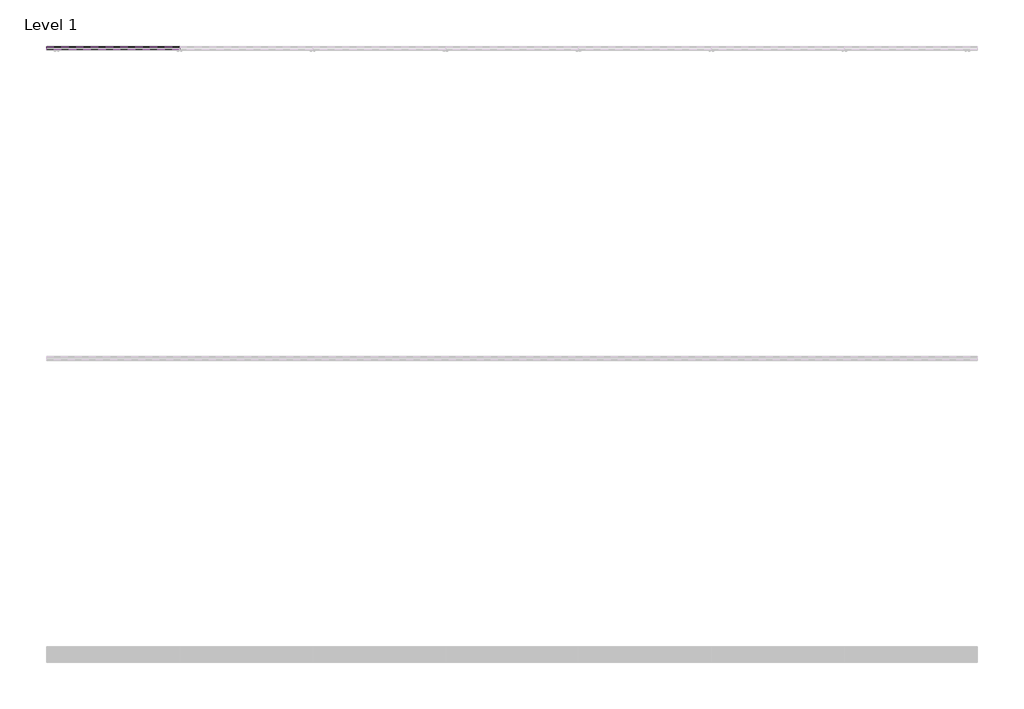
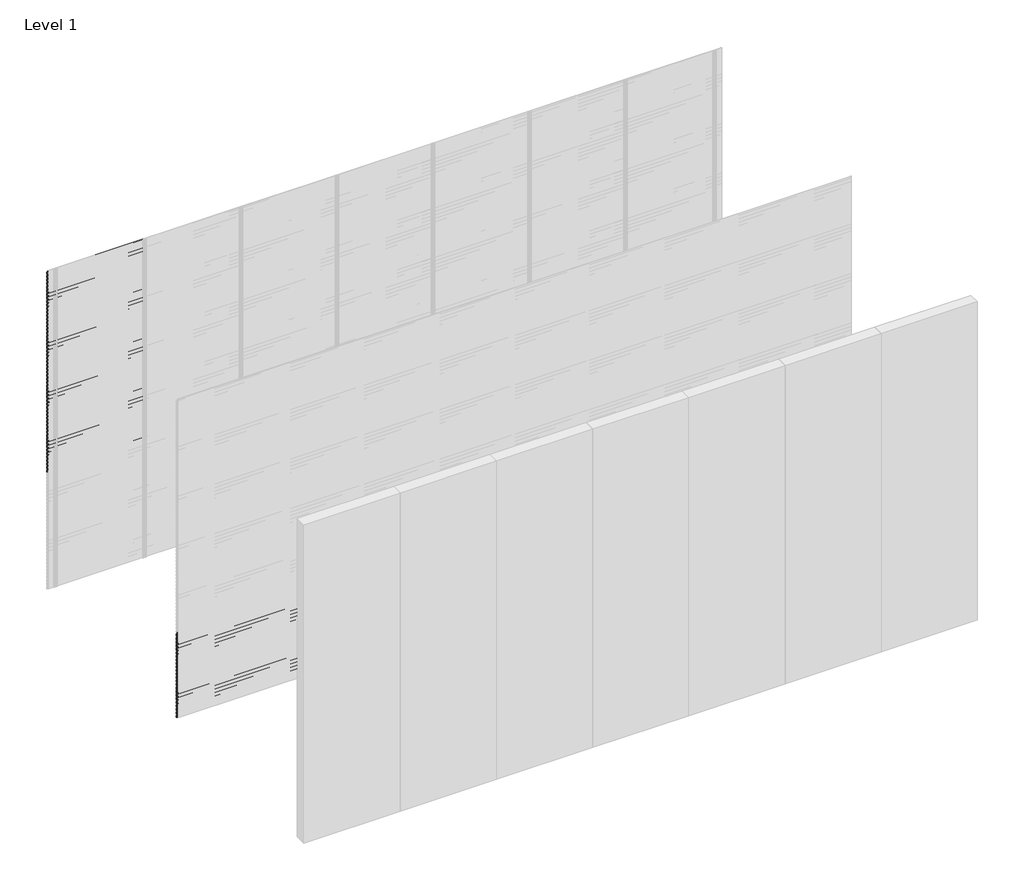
# One storey, part 89 of 96: 81 proxies.
"""IFC4 building model written with IfcOpenShell, lengths in millimetres."""

import ifcopenshell
import ifcopenshell.guid

model = None  # the IFC model being written
_history = None  # IfcOwnerHistory: only IFC2X3 demands one
_inside = {}  # id of a spatial element -> (the spatial element, [elements in it])
_under = {}  # id of a project, library or spatial element -> (it, [spatial elements below it])
_declared = {}  # id of a project -> (the project, [libraries it declares])
_typed = {}  # id of a type object -> (the type object, [elements of that type])
_made_of = {}  # id of a material, layer set ... -> (it, [elements and type objects made of it])


def new_model(schema):
    """Start an empty IFC model of exactly this schema.

    Asked for "IFC4X3", IfcOpenShell would pick the latest addendum, in which some entities
    have other attributes; the version numbers below select the first issue.
    IFC2X3 requires an IfcOwnerHistory on every rooted entity: one is made here for all.
    """
    global model, _history
    if schema == "IFC4X3":
        model = ifcopenshell.file(schema_version=(4, 3, 0, 0))
    else:
        model = ifcopenshell.file(schema=schema)
    _inside.clear()
    _under.clear()
    _declared.clear()
    _typed.clear()
    _made_of.clear()
    _history = None
    if model.schema == "IFC2X3":
        org = make("IfcOrganization", Name="unknown")
        user = make(
            "IfcPersonAndOrganization",
            ThePerson=make("IfcPerson", FamilyName="unknown"),
            TheOrganization=org,
        )
        app = make(
            "IfcApplication",
            ApplicationDeveloper=org,
            Version="unknown",
            ApplicationFullName="unknown",
            ApplicationIdentifier="unknown",
        )
        _history = make(
            "IfcOwnerHistory",
            OwningUser=user,
            OwningApplication=app,
            ChangeAction="ADDED",
            CreationDate=0,
        )
    return model


def make(cls, **values):
    """One entity of the class cls with the attributes given. An attribute that is None is left unset."""
    return model.create_entity(
        cls, **{name: value for name, value in values.items() if value is not None}
    )


def rooted(cls, **values):
    """An entity with a GlobalId (a new one), such as an element, a storey or a relation."""
    return make(cls, GlobalId=ifcopenshell.guid.new(), OwnerHistory=_history, **values)


def si_unit(unit_type, name, prefix=None):
    """IfcSIUnit, for example si_unit("LENGTHUNIT", "METRE", prefix="MILLI")."""
    return make("IfcSIUnit", UnitType=unit_type, Prefix=prefix, Name=name)


def assignment(units):
    """IfcUnitAssignment: the units of a project."""
    return None if units is None else make("IfcUnitAssignment", Units=units)


def point(xyz):
    """IfcCartesianPoint."""
    return None if xyz is None else make("IfcCartesianPoint", Coordinates=xyz)


def direction(xyz):
    """IfcDirection."""
    return None if xyz is None else make("IfcDirection", DirectionRatios=xyz)


def frame(location, z_axis=None, x_axis=None):
    """IfcAxis2Placement3D, a coordinate frame: its origin and axes. An axis left out is left unset."""
    return make(
        "IfcAxis2Placement3D",
        Location=point(location),
        Axis=direction(z_axis),
        RefDirection=direction(x_axis),
    )


def origin():
    """The frame at (0, 0, 0) with its axes left unset."""
    return frame((0.0, 0.0, 0.0))


def place(relative_to, where):
    """IfcLocalPlacement: puts the frame where relative to a parent placement (None: the world)."""
    return make(
        "IfcLocalPlacement", PlacementRelTo=relative_to, RelativePlacement=where
    )


def context(
    kind, dimensions, precision=None, world=None, true_north=None, identifier=None
):
    """IfcGeometricRepresentationContext, for example the 3D "Model" context."""
    return make(
        "IfcGeometricRepresentationContext",
        ContextIdentifier=identifier,
        ContextType=kind,
        CoordinateSpaceDimension=dimensions,
        Precision=precision,
        WorldCoordinateSystem=world,
        TrueNorth=true_north,
    )


def project(units=None, contexts=None):
    """IfcProject with its units and contexts."""
    return rooted(
        "IfcProject",
        Name="project",
        RepresentationContexts=contexts,
        UnitsInContext=assignment(units),
    )


def spatial(cls, under=None, at=None, **own):
    """A site, building, storey or space (cls), placed at a placement, below another one or the project."""
    s = rooted(cls, ObjectPlacement=at, **own)
    if under is not None:
        _under.setdefault(under.id(), (under, []))[1].append(s)
    return s


def polyline(points):
    """IfcPolyline through the points."""
    return make("IfcPolyline", Points=[point(p) for p in points])


def outline(outer, holes=None, kind="AREA"):
    """IfcArbitraryClosedProfileDef: a profile drawn as a closed curve; with holes, ...WithVoids."""
    if holes is None:
        return make("IfcArbitraryClosedProfileDef", ProfileType=kind, OuterCurve=outer)
    return make(
        "IfcArbitraryProfileDefWithVoids",
        ProfileType=kind,
        OuterCurve=outer,
        InnerCurves=holes,
    )


def extrude(swept, where, along, depth):
    """IfcExtrudedAreaSolid: the profile swept, set in the frame where, extruded along a direction by depth."""
    return make(
        "IfcExtrudedAreaSolid",
        SweptArea=swept,
        Position=where,
        ExtrudedDirection=direction(along),
        Depth=depth,
    )


def shape(context_of_items, identifier, shape_type, items):
    """IfcShapeRepresentation: the items that make up one representation, for example the "Body"."""
    return make(
        "IfcShapeRepresentation",
        ContextOfItems=context_of_items,
        RepresentationIdentifier=identifier,
        RepresentationType=shape_type,
        Items=items,
    )


def made_of(thing, what):
    """Note that an element or type object is made of a material, layer set ...; save() writes the relation."""
    if what is not None:
        _made_of.setdefault(what.id(), (what, []))[1].append(thing)
    return thing


def element(
    cls,
    number,
    at=None,
    inside=None,
    cuts=None,
    type_object=None,
    material=None,
    context=None,
    identifier="Body",
    shape_type=None,
    held_by="IfcProductDefinitionShape",
    body=None,
    shapes=None,
    **own,
):
    """One element of the class cls, such as IfcWall. Its Tag is "e" and its number.

    at: its placement. inside: the storey or other place that contains it. cuts: it is an
    opening in that element (IfcRelVoidsElement). A single representation is given by context,
    identifier, shape_type and body (its items); several are given by shapes. held_by: the class
    of the entity that holds the representations. save() writes the other relations.
    """
    e = rooted(cls, Tag="e%d" % number, ObjectPlacement=at, **own)
    if body is not None:
        shapes = [shape(context, identifier, shape_type, body)]
    if shapes is not None:
        e.Representation = make(held_by, Representations=shapes)
    if inside is not None:
        _inside.setdefault(inside.id(), (inside, []))[1].append(e)
    if cuts is not None:
        rooted(
            "IfcRelVoidsElement", RelatingBuildingElement=cuts, RelatedOpeningElement=e
        )
    if type_object is not None:
        _typed.setdefault(type_object.id(), (type_object, []))[1].append(e)
    return made_of(e, material)


def aggregate(whole, parts):
    """IfcRelAggregates: a whole, such as a stair, and the parts it consists of."""
    return rooted("IfcRelAggregates", RelatingObject=whole, RelatedObjects=parts)


def save(model, path):
    """Write the relations noted so far, then the file.

    IfcRelAggregates (storeys below a building ...), IfcRelContainedInSpatialStructure (elements
    in a storey), IfcRelDefinesByType, IfcRelAssociatesMaterial and IfcRelDeclares: one each for
    every whole, place, type object, material and project.
    """
    for whole, parts in _under.values():
        aggregate(whole, parts)
    for where, things in _inside.values():
        rooted(
            "IfcRelContainedInSpatialStructure",
            RelatedElements=things,
            RelatingStructure=where,
        )
    for kind, things in _typed.values():
        rooted("IfcRelDefinesByType", RelatedObjects=things, RelatingType=kind)
    for what, things in _made_of.values():
        rooted("IfcRelAssociatesMaterial", RelatedObjects=things, RelatingMaterial=what)
    for by, libraries in _declared.values():
        rooted("IfcRelDeclares", RelatingContext=by, RelatedDefinitions=libraries)
    model.write(path)


model = new_model("IFC4")

# Units and contexts
model_context = context("Model", 3, world=origin())
ifc_project = project(units=[si_unit("LENGTHUNIT", "METRE", prefix="MILLI")], contexts=[model_context])

# Site, building, storey
site = spatial("IfcSite", under=ifc_project)
building = spatial("IfcBuilding", under=site)
storey = spatial("IfcBuildingStorey", under=building, Name="Level 1", Elevation=0.0)

# Proxies
placement = place(None, origin())
element("IfcBuildingElementProxy", 1, Name="Wall Sweeps", at=placement, inside=storey, context=model_context, shape_type="SweptSolid", body=[
    extrude(outline(polyline([(22.4, 2971.7655033), (22.4, 2957.4779188), (17.5885035, 2954.7), (17.5885035, 2955.9701706), (21.15, 2958.0264016), (21.15, 2971.0437382), (2.0, 2982.1000799), (2.0, 2997.0), (3.25, 2997.0), (3.25, 2982.8217609), (22.4, 2971.7655033)])), frame((0.0, 0.0, 0.0), z_axis=(1.0, 0.0, 0.0), x_axis=(0.0, 1.0, 0.0)), (0.0, 0.0, 1.0), 857.1428571),
])
element("IfcBuildingElementProxy", 2, Name="Wall Sweeps", at=placement, inside=storey, context=model_context, shape_type="SweptSolid", body=[
    extrude(outline(polyline([(22.4, 2938.4655033), (22.4, 2924.1779188), (17.5885035, 2921.4), (17.5885035, 2922.6701706), (21.15, 2924.7264016), (21.15, 2937.7437382), (2.0, 2948.8000799), (2.0, 2963.7), (3.25, 2963.7), (3.25, 2949.5217609), (22.4, 2938.4655033)])), frame((0.0, 0.0, 0.0), z_axis=(1.0, 0.0, 0.0), x_axis=(0.0, 1.0, 0.0)), (0.0, 0.0, 1.0), 857.1428571),
])
element("IfcBuildingElementProxy", 3, Name="Wall Sweeps", at=placement, inside=storey, context=model_context, shape_type="SweptSolid", body=[
    extrude(outline(polyline([(22.4, 2905.1655033), (22.4, 2890.8779188), (17.5885035, 2888.1), (17.5885035, 2889.3701706), (21.15, 2891.4264016), (21.15, 2904.4437382), (2.0, 2915.5000799), (2.0, 2930.4), (3.25, 2930.4), (3.25, 2916.2217609), (22.4, 2905.1655033)])), frame((0.0, 0.0, 0.0), z_axis=(1.0, 0.0, 0.0), x_axis=(0.0, 1.0, 0.0)), (0.0, 0.0, 1.0), 857.1428571),
])
element("IfcBuildingElementProxy", 4, Name="Wall Sweeps", at=placement, inside=storey, context=model_context, shape_type="SweptSolid", body=[
    extrude(outline(polyline([(22.4, 2871.8655033), (22.4, 2857.5779188), (17.5885035, 2854.8), (17.5885035, 2856.0701706), (21.15, 2858.1264016), (21.15, 2871.1437382), (2.0, 2882.2000799), (2.0, 2897.1), (3.25, 2897.1), (3.25, 2882.9217609), (22.4, 2871.8655033)])), frame((0.0, 0.0, 0.0), z_axis=(1.0, 0.0, 0.0), x_axis=(0.0, 1.0, 0.0)), (0.0, 0.0, 1.0), 857.1428571),
])
element("IfcBuildingElementProxy", 5, Name="Wall Sweeps", at=placement, inside=storey, context=model_context, shape_type="SweptSolid", body=[
    extrude(outline(polyline([(22.4, 2838.5655033), (22.4, 2824.2779188), (17.5885035, 2821.5), (17.5885035, 2822.7701706), (21.15, 2824.8264016), (21.15, 2837.8437382), (2.0, 2848.9000799), (2.0, 2863.8), (3.25, 2863.8), (3.25, 2849.6217609), (22.4, 2838.5655033)])), frame((0.0, 0.0, 0.0), z_axis=(1.0, 0.0, 0.0), x_axis=(0.0, 1.0, 0.0)), (0.0, 0.0, 1.0), 857.1428571),
])
element("IfcBuildingElementProxy", 6, Name="Wall Sweeps", at=placement, inside=storey, context=model_context, shape_type="SweptSolid", body=[
    extrude(outline(polyline([(22.4, 2805.2655033), (22.4, 2790.9779188), (17.5885035, 2788.2), (17.5885035, 2789.4701706), (21.15, 2791.5264016), (21.15, 2804.5437382), (2.0, 2815.6000799), (2.0, 2830.5), (3.25, 2830.5), (3.25, 2816.3217609), (22.4, 2805.2655033)])), frame((0.0, 0.0, 0.0), z_axis=(1.0, 0.0, 0.0), x_axis=(0.0, 1.0, 0.0)), (0.0, 0.0, 1.0), 857.1428571),
])
element("IfcBuildingElementProxy", 7, Name="Wall Sweeps", at=placement, inside=storey, context=model_context, shape_type="SweptSolid", body=[
    extrude(outline(polyline([(22.4, 2771.9655033), (22.4, 2757.6779188), (17.5885035, 2754.9), (17.5885035, 2756.1701706), (21.15, 2758.2264016), (21.15, 2771.2437382), (2.0, 2782.3000799), (2.0, 2797.2), (3.25, 2797.2), (3.25, 2783.0217609), (22.4, 2771.9655033)])), frame((0.0, 0.0, 0.0), z_axis=(1.0, 0.0, 0.0), x_axis=(0.0, 1.0, 0.0)), (0.0, 0.0, 1.0), 857.1428571),
])
element("IfcBuildingElementProxy", 8, Name="Wall Sweeps", at=placement, inside=storey, context=model_context, shape_type="SweptSolid", body=[
    extrude(outline(polyline([(22.4, 2738.6655033), (22.4, 2724.3779188), (17.5885035, 2721.6), (17.5885035, 2722.8701706), (21.15, 2724.9264016), (21.15, 2737.9437382), (2.0, 2749.0000799), (2.0, 2763.9), (3.25, 2763.9), (3.25, 2749.7217609), (22.4, 2738.6655033)])), frame((0.0, 0.0, 0.0), z_axis=(1.0, 0.0, 0.0), x_axis=(0.0, 1.0, 0.0)), (0.0, 0.0, 1.0), 857.1428571),
])
element("IfcBuildingElementProxy", 9, Name="Wall Sweeps", at=placement, inside=storey, context=model_context, shape_type="SweptSolid", body=[
    extrude(outline(polyline([(22.4, 2705.3655033), (22.4, 2691.0779188), (17.5885035, 2688.3), (17.5885035, 2689.5701706), (21.15, 2691.6264016), (21.15, 2704.6437382), (2.0, 2715.7000799), (2.0, 2730.6), (3.25, 2730.6), (3.25, 2716.4217609), (22.4, 2705.3655033)])), frame((0.0, 0.0, 0.0), z_axis=(1.0, 0.0, 0.0), x_axis=(0.0, 1.0, 0.0)), (0.0, 0.0, 1.0), 857.1428571),
])
element("IfcBuildingElementProxy", 10, Name="Wall Sweeps", at=placement, inside=storey, context=model_context, shape_type="SweptSolid", body=[
    extrude(outline(polyline([(22.4, 2672.0655033), (22.4, 2657.7779188), (17.5885035, 2655.0), (17.5885035, 2656.2701706), (21.15, 2658.3264016), (21.15, 2671.3437382), (2.0, 2682.4000799), (2.0, 2697.3), (3.25, 2697.3), (3.25, 2683.1217609), (22.4, 2672.0655033)])), frame((0.0, 0.0, 0.0), z_axis=(1.0, 0.0, 0.0), x_axis=(0.0, 1.0, 0.0)), (0.0, 0.0, 1.0), 857.1428571),
])
element("IfcBuildingElementProxy", 11, Name="Wall Sweeps", at=placement, inside=storey, context=model_context, shape_type="SweptSolid", body=[
    extrude(outline(polyline([(22.4, 2638.7655033), (22.4, 2624.4779188), (17.5885035, 2621.7), (17.5885035, 2622.9701706), (21.15, 2625.0264016), (21.15, 2638.0437382), (2.0, 2649.1000799), (2.0, 2664.0), (3.25, 2664.0), (3.25, 2649.8217609), (22.4, 2638.7655033)])), frame((0.0, 0.0, 0.0), z_axis=(1.0, 0.0, 0.0), x_axis=(0.0, 1.0, 0.0)), (0.0, 0.0, 1.0), 857.1428571),
])
element("IfcBuildingElementProxy", 12, Name="Wall Sweeps", at=placement, inside=storey, context=model_context, shape_type="SweptSolid", body=[
    extrude(outline(polyline([(22.4, 2605.4655033), (22.4, 2591.1779188), (17.5885035, 2588.4), (17.5885035, 2589.6701706), (21.15, 2591.7264016), (21.15, 2604.7437382), (2.0, 2615.8000799), (2.0, 2630.7), (3.25, 2630.7), (3.25, 2616.5217609), (22.4, 2605.4655033)])), frame((0.0, 0.0, 0.0), z_axis=(1.0, 0.0, 0.0), x_axis=(0.0, 1.0, 0.0)), (0.0, 0.0, 1.0), 857.1428571),
])
element("IfcBuildingElementProxy", 13, Name="Wall Sweeps", at=placement, inside=storey, context=model_context, shape_type="SweptSolid", body=[
    extrude(outline(polyline([(22.4, 2572.1655033), (22.4, 2557.8779188), (17.5885035, 2555.1), (17.5885035, 2556.3701706), (21.15, 2558.4264016), (21.15, 2571.4437382), (2.0, 2582.5000799), (2.0, 2597.4), (3.25, 2597.4), (3.25, 2583.2217609), (22.4, 2572.1655033)])), frame((0.0, 0.0, 0.0), z_axis=(1.0, 0.0, 0.0), x_axis=(0.0, 1.0, 0.0)), (0.0, 0.0, 1.0), 857.1428571),
])
element("IfcBuildingElementProxy", 14, Name="Wall Sweeps", at=placement, inside=storey, context=model_context, shape_type="SweptSolid", body=[
    extrude(outline(polyline([(22.4, 2538.8655033), (22.4, 2524.5779188), (17.5885035, 2521.8), (17.5885035, 2523.0701706), (21.15, 2525.1264016), (21.15, 2538.1437382), (2.0, 2549.2000799), (2.0, 2564.1), (3.25, 2564.1), (3.25, 2549.9217609), (22.4, 2538.8655033)])), frame((0.0, 0.0, 0.0), z_axis=(1.0, 0.0, 0.0), x_axis=(0.0, 1.0, 0.0)), (0.0, 0.0, 1.0), 857.1428571),
])
element("IfcBuildingElementProxy", 15, Name="Wall Sweeps", at=placement, inside=storey, context=model_context, shape_type="SweptSolid", body=[
    extrude(outline(polyline([(22.4, 2505.5655033), (22.4, 2491.2779188), (17.5885035, 2488.5), (17.5885035, 2489.7701706), (21.15, 2491.8264016), (21.15, 2504.8437382), (2.0, 2515.9000799), (2.0, 2530.8), (3.25, 2530.8), (3.25, 2516.6217609), (22.4, 2505.5655033)])), frame((0.0, 0.0, 0.0), z_axis=(1.0, 0.0, 0.0), x_axis=(0.0, 1.0, 0.0)), (0.0, 0.0, 1.0), 857.1428571),
])
element("IfcBuildingElementProxy", 16, Name="Wall Sweeps", at=placement, inside=storey, context=model_context, shape_type="SweptSolid", body=[
    extrude(outline(polyline([(22.4, 2472.2655033), (22.4, 2457.9779188), (17.5885035, 2455.2), (17.5885035, 2456.4701706), (21.15, 2458.5264016), (21.15, 2471.5437382), (2.0, 2482.6000799), (2.0, 2497.5), (3.25, 2497.5), (3.25, 2483.3217609), (22.4, 2472.2655033)])), frame((0.0, 0.0, 0.0), z_axis=(1.0, 0.0, 0.0), x_axis=(0.0, 1.0, 0.0)), (0.0, 0.0, 1.0), 857.1428571),
])
element("IfcBuildingElementProxy", 17, Name="Wall Sweeps", at=placement, inside=storey, context=model_context, shape_type="SweptSolid", body=[
    extrude(outline(polyline([(22.4, 2438.9655033), (22.4, 2424.6779188), (17.5885035, 2421.9), (17.5885035, 2423.1701706), (21.15, 2425.2264016), (21.15, 2438.2437382), (2.0, 2449.3000799), (2.0, 2464.2), (3.25, 2464.2), (3.25, 2450.0217609), (22.4, 2438.9655033)])), frame((0.0, 0.0, 0.0), z_axis=(1.0, 0.0, 0.0), x_axis=(0.0, 1.0, 0.0)), (0.0, 0.0, 1.0), 857.1428571),
])
element("IfcBuildingElementProxy", 18, Name="Wall Sweeps", at=placement, inside=storey, context=model_context, shape_type="SweptSolid", body=[
    extrude(outline(polyline([(22.4, 2405.6655033), (22.4, 2391.3779188), (17.5885035, 2388.6), (17.5885035, 2389.8701706), (21.15, 2391.9264016), (21.15, 2404.9437382), (2.0, 2416.0000799), (2.0, 2430.9), (3.25, 2430.9), (3.25, 2416.7217609), (22.4, 2405.6655033)])), frame((0.0, 0.0, 0.0), z_axis=(1.0, 0.0, 0.0), x_axis=(0.0, 1.0, 0.0)), (0.0, 0.0, 1.0), 857.1428571),
])
element("IfcBuildingElementProxy", 19, Name="Wall Sweeps", at=placement, inside=storey, context=model_context, shape_type="SweptSolid", body=[
    extrude(outline(polyline([(22.4, 2372.3655033), (22.4, 2358.0779188), (17.5885035, 2355.3), (17.5885035, 2356.5701706), (21.15, 2358.6264016), (21.15, 2371.6437382), (2.0, 2382.7000799), (2.0, 2397.6), (3.25, 2397.6), (3.25, 2383.4217609), (22.4, 2372.3655033)])), frame((0.0, 0.0, 0.0), z_axis=(1.0, 0.0, 0.0), x_axis=(0.0, 1.0, 0.0)), (0.0, 0.0, 1.0), 857.1428571),
])
element("IfcBuildingElementProxy", 20, Name="Wall Sweeps", at=placement, inside=storey, context=model_context, shape_type="SweptSolid", body=[
    extrude(outline(polyline([(22.4, 2339.0655033), (22.4, 2324.7779188), (17.5885035, 2322.0), (17.5885035, 2323.2701706), (21.15, 2325.3264016), (21.15, 2338.3437382), (2.0, 2349.4000799), (2.0, 2364.3), (3.25, 2364.3), (3.25, 2350.1217609), (22.4, 2339.0655033)])), frame((0.0, 0.0, 0.0), z_axis=(1.0, 0.0, 0.0), x_axis=(0.0, 1.0, 0.0)), (0.0, 0.0, 1.0), 857.1428571),
])
element("IfcBuildingElementProxy", 21, Name="Wall Sweeps", at=placement, inside=storey, context=model_context, shape_type="SweptSolid", body=[
    extrude(outline(polyline([(22.4, 2305.7655033), (22.4, 2291.4779188), (17.5885035, 2288.7), (17.5885035, 2289.9701706), (21.15, 2292.0264016), (21.15, 2305.0437382), (2.0, 2316.1000799), (2.0, 2331.0), (3.25, 2331.0), (3.25, 2316.8217609), (22.4, 2305.7655033)])), frame((0.0, 0.0, 0.0), z_axis=(1.0, 0.0, 0.0), x_axis=(0.0, 1.0, 0.0)), (0.0, 0.0, 1.0), 857.1428571),
])
element("IfcBuildingElementProxy", 22, Name="Wall Sweeps", at=placement, inside=storey, context=model_context, shape_type="SweptSolid", body=[
    extrude(outline(polyline([(22.4, 2272.4655033), (22.4, 2258.1779188), (17.5885035, 2255.4), (17.5885035, 2256.6701706), (21.15, 2258.7264016), (21.15, 2271.7437382), (2.0, 2282.8000799), (2.0, 2297.7), (3.25, 2297.7), (3.25, 2283.5217609), (22.4, 2272.4655033)])), frame((0.0, 0.0, 0.0), z_axis=(1.0, 0.0, 0.0), x_axis=(0.0, 1.0, 0.0)), (0.0, 0.0, 1.0), 857.1428571),
])
element("IfcBuildingElementProxy", 23, Name="Wall Sweeps", at=placement, inside=storey, context=model_context, shape_type="SweptSolid", body=[
    extrude(outline(polyline([(22.4, 2239.1655033), (22.4, 2224.8779188), (17.5885035, 2222.1), (17.5885035, 2223.3701706), (21.15, 2225.4264016), (21.15, 2238.4437382), (2.0, 2249.5000799), (2.0, 2264.4), (3.25, 2264.4), (3.25, 2250.2217609), (22.4, 2239.1655033)])), frame((0.0, 0.0, 0.0), z_axis=(1.0, 0.0, 0.0), x_axis=(0.0, 1.0, 0.0)), (0.0, 0.0, 1.0), 857.1428571),
])
element("IfcBuildingElementProxy", 24, Name="Wall Sweeps", at=placement, inside=storey, context=model_context, shape_type="SweptSolid", body=[
    extrude(outline(polyline([(22.4, 2205.8655033), (22.4, 2191.5779188), (17.5885035, 2188.8), (17.5885035, 2190.0701706), (21.15, 2192.1264016), (21.15, 2205.1437382), (2.0, 2216.2000799), (2.0, 2231.1), (3.25, 2231.1), (3.25, 2216.9217609), (22.4, 2205.8655033)])), frame((0.0, 0.0, 0.0), z_axis=(1.0, 0.0, 0.0), x_axis=(0.0, 1.0, 0.0)), (0.0, 0.0, 1.0), 857.1428571),
])
element("IfcBuildingElementProxy", 25, Name="Wall Sweeps", at=placement, inside=storey, context=model_context, shape_type="SweptSolid", body=[
    extrude(outline(polyline([(22.4, 2172.5655033), (22.4, 2158.2779188), (17.5885035, 2155.5), (17.5885035, 2156.7701706), (21.15, 2158.8264016), (21.15, 2171.8437382), (2.0, 2182.9000799), (2.0, 2197.8), (3.25, 2197.8), (3.25, 2183.6217609), (22.4, 2172.5655033)])), frame((0.0, 0.0, 0.0), z_axis=(1.0, 0.0, 0.0), x_axis=(0.0, 1.0, 0.0)), (0.0, 0.0, 1.0), 857.1428571),
])
element("IfcBuildingElementProxy", 26, Name="Wall Sweeps", at=placement, inside=storey, context=model_context, shape_type="SweptSolid", body=[
    extrude(outline(polyline([(22.4, 2139.2655033), (22.4, 2124.9779188), (17.5885035, 2122.2), (17.5885035, 2123.4701706), (21.15, 2125.5264016), (21.15, 2138.5437382), (2.0, 2149.6000799), (2.0, 2164.5), (3.25, 2164.5), (3.25, 2150.3217609), (22.4, 2139.2655033)])), frame((0.0, 0.0, 0.0), z_axis=(1.0, 0.0, 0.0), x_axis=(0.0, 1.0, 0.0)), (0.0, 0.0, 1.0), 857.1428571),
])
element("IfcBuildingElementProxy", 27, Name="Wall Sweeps", at=placement, inside=storey, context=model_context, shape_type="SweptSolid", body=[
    extrude(outline(polyline([(22.4, 2105.9655033), (22.4, 2091.6779188), (17.5885035, 2088.9), (17.5885035, 2090.1701706), (21.15, 2092.2264016), (21.15, 2105.2437382), (2.0, 2116.3000799), (2.0, 2131.2), (3.25, 2131.2), (3.25, 2117.0217609), (22.4, 2105.9655033)])), frame((0.0, 0.0, 0.0), z_axis=(1.0, 0.0, 0.0), x_axis=(0.0, 1.0, 0.0)), (0.0, 0.0, 1.0), 857.1428571),
])
element("IfcBuildingElementProxy", 28, Name="Wall Sweeps", at=placement, inside=storey, context=model_context, shape_type="SweptSolid", body=[
    extrude(outline(polyline([(22.4, 2072.6655033), (22.4, 2058.3779188), (17.5885035, 2055.6), (17.5885035, 2056.8701706), (21.15, 2058.9264016), (21.15, 2071.9437382), (2.0, 2083.0000799), (2.0, 2097.9), (3.25, 2097.9), (3.25, 2083.7217609), (22.4, 2072.6655033)])), frame((0.0, 0.0, 0.0), z_axis=(1.0, 0.0, 0.0), x_axis=(0.0, 1.0, 0.0)), (0.0, 0.0, 1.0), 857.1428571),
])
element("IfcBuildingElementProxy", 29, Name="Wall Sweeps", at=placement, inside=storey, context=model_context, shape_type="SweptSolid", body=[
    extrude(outline(polyline([(22.4, 2039.3655033), (22.4, 2025.0779188), (17.5885035, 2022.3), (17.5885035, 2023.5701706), (21.15, 2025.6264016), (21.15, 2038.6437382), (2.0, 2049.7000799), (2.0, 2064.6), (3.25, 2064.6), (3.25, 2050.4217609), (22.4, 2039.3655033)])), frame((0.0, 0.0, 0.0), z_axis=(1.0, 0.0, 0.0), x_axis=(0.0, 1.0, 0.0)), (0.0, 0.0, 1.0), 857.1428571),
])
element("IfcBuildingElementProxy", 30, Name="Wall Sweeps", at=placement, inside=storey, context=model_context, shape_type="SweptSolid", body=[
    extrude(outline(polyline([(22.4, 2006.0655033), (22.4, 1991.7779188), (17.5885035, 1989.0), (17.5885035, 1990.2701706), (21.15, 1992.3264016), (21.15, 2005.3437382), (2.0, 2016.4000799), (2.0, 2031.3), (3.25, 2031.3), (3.25, 2017.1217609), (22.4, 2006.0655033)])), frame((0.0, 0.0, 0.0), z_axis=(1.0, 0.0, 0.0), x_axis=(0.0, 1.0, 0.0)), (0.0, 0.0, 1.0), 857.1428571),
])
element("IfcBuildingElementProxy", 31, Name="Wall Sweeps", at=placement, inside=storey, context=model_context, shape_type="SweptSolid", body=[
    extrude(outline(polyline([(22.4, 1972.7655033), (22.4, 1958.4779188), (17.5885035, 1955.7), (17.5885035, 1956.9701706), (21.15, 1959.0264016), (21.15, 1972.0437382), (2.0, 1983.1000799), (2.0, 1998.0), (3.25, 1998.0), (3.25, 1983.8217609), (22.4, 1972.7655033)])), frame((0.0, 0.0, 0.0), z_axis=(1.0, 0.0, 0.0), x_axis=(0.0, 1.0, 0.0)), (0.0, 0.0, 1.0), 857.1428571),
])
element("IfcBuildingElementProxy", 32, Name="Wall Sweeps", at=placement, inside=storey, context=model_context, shape_type="SweptSolid", body=[
    extrude(outline(polyline([(22.4, 1939.4655033), (22.4, 1925.1779188), (17.5885035, 1922.4), (17.5885035, 1923.6701706), (21.15, 1925.7264016), (21.15, 1938.7437382), (2.0, 1949.8000799), (2.0, 1964.7), (3.25, 1964.7), (3.25, 1950.5217609), (22.4, 1939.4655033)])), frame((0.0, 0.0, 0.0), z_axis=(1.0, 0.0, 0.0), x_axis=(0.0, 1.0, 0.0)), (0.0, 0.0, 1.0), 857.1428571),
])
element("IfcBuildingElementProxy", 33, Name="Wall Sweeps", at=placement, inside=storey, context=model_context, shape_type="SweptSolid", body=[
    extrude(outline(polyline([(22.4, 1906.1655033), (22.4, 1891.8779188), (17.5885035, 1889.1), (17.5885035, 1890.3701706), (21.15, 1892.4264016), (21.15, 1905.4437382), (2.0, 1916.5000799), (2.0, 1931.4), (3.25, 1931.4), (3.25, 1917.2217609), (22.4, 1906.1655033)])), frame((0.0, 0.0, 0.0), z_axis=(1.0, 0.0, 0.0), x_axis=(0.0, 1.0, 0.0)), (0.0, 0.0, 1.0), 857.1428571),
])
element("IfcBuildingElementProxy", 34, Name="Wall Sweeps", at=placement, inside=storey, context=model_context, shape_type="SweptSolid", body=[
    extrude(outline(polyline([(22.4, 1872.8655033), (22.4, 1858.5779188), (17.5885035, 1855.8), (17.5885035, 1857.0701706), (21.15, 1859.1264016), (21.15, 1872.1437382), (2.0, 1883.2000799), (2.0, 1898.1), (3.25, 1898.1), (3.25, 1883.9217609), (22.4, 1872.8655033)])), frame((0.0, 0.0, 0.0), z_axis=(1.0, 0.0, 0.0), x_axis=(0.0, 1.0, 0.0)), (0.0, 0.0, 1.0), 857.1428571),
])
element("IfcBuildingElementProxy", 35, Name="Wall Sweeps", at=placement, inside=storey, context=model_context, shape_type="SweptSolid", body=[
    extrude(outline(polyline([(22.4, 1839.5655033), (22.4, 1825.2779188), (17.5885035, 1822.5), (17.5885035, 1823.7701706), (21.15, 1825.8264016), (21.15, 1838.8437382), (2.0, 1849.9000799), (2.0, 1864.8), (3.25, 1864.8), (3.25, 1850.6217609), (22.4, 1839.5655033)])), frame((0.0, 0.0, 0.0), z_axis=(1.0, 0.0, 0.0), x_axis=(0.0, 1.0, 0.0)), (0.0, 0.0, 1.0), 857.1428571),
])
element("IfcBuildingElementProxy", 36, Name="Wall Sweeps", at=placement, inside=storey, context=model_context, shape_type="SweptSolid", body=[
    extrude(outline(polyline([(22.4, 1806.2655033), (22.4, 1791.9779188), (17.5885035, 1789.2), (17.5885035, 1790.4701706), (21.15, 1792.5264016), (21.15, 1805.5437382), (2.0, 1816.6000799), (2.0, 1831.5), (3.25, 1831.5), (3.25, 1817.3217609), (22.4, 1806.2655033)])), frame((0.0, 0.0, 0.0), z_axis=(1.0, 0.0, 0.0), x_axis=(0.0, 1.0, 0.0)), (0.0, 0.0, 1.0), 857.1428571),
])
element("IfcBuildingElementProxy", 37, Name="Wall Sweeps", at=placement, inside=storey, context=model_context, shape_type="SweptSolid", body=[
    extrude(outline(polyline([(22.4, 1772.9655033), (22.4, 1758.6779188), (17.5885035, 1755.9), (17.5885035, 1757.1701706), (21.15, 1759.2264016), (21.15, 1772.2437382), (2.0, 1783.3000799), (2.0, 1798.2), (3.25, 1798.2), (3.25, 1784.0217609), (22.4, 1772.9655033)])), frame((0.0, 0.0, 0.0), z_axis=(1.0, 0.0, 0.0), x_axis=(0.0, 1.0, 0.0)), (0.0, 0.0, 1.0), 857.1428571),
])
element("IfcBuildingElementProxy", 38, Name="Wall Sweeps", at=placement, inside=storey, context=model_context, shape_type="SweptSolid", body=[
    extrude(outline(polyline([(22.4, 1739.6655033), (22.4, 1725.3779188), (17.5885035, 1722.6), (17.5885035, 1723.8701706), (21.15, 1725.9264016), (21.15, 1738.9437382), (2.0, 1750.0000799), (2.0, 1764.9), (3.25, 1764.9), (3.25, 1750.7217609), (22.4, 1739.6655033)])), frame((0.0, 0.0, 0.0), z_axis=(1.0, 0.0, 0.0), x_axis=(0.0, 1.0, 0.0)), (0.0, 0.0, 1.0), 857.1428571),
])
element("IfcBuildingElementProxy", 39, Name="Wall Sweeps", at=placement, inside=storey, context=model_context, shape_type="SweptSolid", body=[
    extrude(outline(polyline([(22.4, 1706.3655033), (22.4, 1692.0779188), (17.5885035, 1689.3), (17.5885035, 1690.5701706), (21.15, 1692.6264016), (21.15, 1705.6437382), (2.0, 1716.7000799), (2.0, 1731.6), (3.25, 1731.6), (3.25, 1717.4217609), (22.4, 1706.3655033)])), frame((0.0, 0.0, 0.0), z_axis=(1.0, 0.0, 0.0), x_axis=(0.0, 1.0, 0.0)), (0.0, 0.0, 1.0), 857.1428571),
])
element("IfcBuildingElementProxy", 40, Name="Wall Sweeps", at=placement, inside=storey, context=model_context, shape_type="SweptSolid", body=[
    extrude(outline(polyline([(22.4, 1673.0655033), (22.4, 1658.7779188), (17.5885035, 1656.0), (17.5885035, 1657.2701706), (21.15, 1659.3264016), (21.15, 1672.3437382), (2.0, 1683.4000799), (2.0, 1698.3), (3.25, 1698.3), (3.25, 1684.1217609), (22.4, 1673.0655033)])), frame((0.0, 0.0, 0.0), z_axis=(1.0, 0.0, 0.0), x_axis=(0.0, 1.0, 0.0)), (0.0, 0.0, 1.0), 857.1428571),
])
element("IfcBuildingElementProxy", 41, Name="Wall Sweeps", at=placement, inside=storey, context=model_context, shape_type="SweptSolid", body=[
    extrude(outline(polyline([(22.4, 1639.7655033), (22.4, 1625.4779188), (17.5885035, 1622.7), (17.5885035, 1623.9701706), (21.15, 1626.0264016), (21.15, 1639.0437382), (2.0, 1650.1000799), (2.0, 1665.0), (3.25, 1665.0), (3.25, 1650.8217609), (22.4, 1639.7655033)])), frame((0.0, 0.0, 0.0), z_axis=(1.0, 0.0, 0.0), x_axis=(0.0, 1.0, 0.0)), (0.0, 0.0, 1.0), 857.1428571),
])
element("IfcBuildingElementProxy", 42, Name="Wall Sweeps", at=placement, inside=storey, context=model_context, shape_type="SweptSolid", body=[
    extrude(outline(polyline([(22.4, 1606.4655033), (22.4, 1592.1779188), (17.5885035, 1589.4), (17.5885035, 1590.6701706), (21.15, 1592.7264016), (21.15, 1605.7437382), (2.0, 1616.8000799), (2.0, 1631.7), (3.25, 1631.7), (3.25, 1617.5217609), (22.4, 1606.4655033)])), frame((0.0, 0.0, 0.0), z_axis=(1.0, 0.0, 0.0), x_axis=(0.0, 1.0, 0.0)), (0.0, 0.0, 1.0), 857.1428571),
])
element("IfcBuildingElementProxy", 43, Name="Wall Sweeps", at=placement, inside=storey, context=model_context, shape_type="SweptSolid", body=[
    extrude(outline(polyline([(22.4, 1573.1655033), (22.4, 1558.8779188), (17.5885035, 1556.1), (17.5885035, 1557.3701706), (21.15, 1559.4264016), (21.15, 1572.4437382), (2.0, 1583.5000799), (2.0, 1598.4), (3.25, 1598.4), (3.25, 1584.2217609), (22.4, 1573.1655033)])), frame((0.0, 0.0, 0.0), z_axis=(1.0, 0.0, 0.0), x_axis=(0.0, 1.0, 0.0)), (0.0, 0.0, 1.0), 857.1428571),
])
element("IfcBuildingElementProxy", 44, Name="Wall Sweeps", at=placement, inside=storey, context=model_context, shape_type="SweptSolid", body=[
    extrude(outline(polyline([(22.4, 1539.8655033), (22.4, 1525.5779188), (17.5885035, 1522.8), (17.5885035, 1524.0701706), (21.15, 1526.1264016), (21.15, 1539.1437382), (2.0, 1550.2000799), (2.0, 1565.1), (3.25, 1565.1), (3.25, 1550.9217609), (22.4, 1539.8655033)])), frame((0.0, 0.0, 0.0), z_axis=(1.0, 0.0, 0.0), x_axis=(0.0, 1.0, 0.0)), (0.0, 0.0, 1.0), 857.1428571),
])
element("IfcBuildingElementProxy", 45, Name="Wall Sweeps", at=placement, inside=storey, context=model_context, shape_type="SweptSolid", body=[
    extrude(outline(polyline([(22.4, 1506.5655033), (22.4, 1492.2779188), (17.5885035, 1489.5), (17.5885035, 1490.7701706), (21.15, 1492.8264016), (21.15, 1505.8437382), (2.0, 1516.9000799), (2.0, 1531.8), (3.25, 1531.8), (3.25, 1517.6217609), (22.4, 1506.5655033)])), frame((0.0, 0.0, 0.0), z_axis=(1.0, 0.0, 0.0), x_axis=(0.0, 1.0, 0.0)), (0.0, 0.0, 1.0), 857.1428571),
])
element("IfcBuildingElementProxy", 46, Name="Wall Sweeps", at=placement, inside=storey, context=model_context, shape_type="SweptSolid", body=[
    extrude(outline(polyline([(22.4, 1473.2655033), (22.4, 1458.9779188), (17.5885035, 1456.2), (17.5885035, 1457.4701706), (21.15, 1459.5264016), (21.15, 1472.5437382), (2.0, 1483.6000799), (2.0, 1498.5), (3.25, 1498.5), (3.25, 1484.3217609), (22.4, 1473.2655033)])), frame((0.0, 0.0, 0.0), z_axis=(1.0, 0.0, 0.0), x_axis=(0.0, 1.0, 0.0)), (0.0, 0.0, 1.0), 857.1428571),
])
element("IfcBuildingElementProxy", 47, Name="Wall Sweeps", at=placement, inside=storey, context=model_context, shape_type="SweptSolid", body=[
    extrude(outline(polyline([(22.4, 1439.9655033), (22.4, 1425.6779188), (17.5885035, 1422.9), (17.5885035, 1424.1701706), (21.15, 1426.2264016), (21.15, 1439.2437382), (2.0, 1450.3000799), (2.0, 1465.2), (3.25, 1465.2), (3.25, 1451.0217609), (22.4, 1439.9655033)])), frame((0.0, 0.0, 0.0), z_axis=(1.0, 0.0, 0.0), x_axis=(0.0, 1.0, 0.0)), (0.0, 0.0, 1.0), 857.1428571),
])
element("IfcBuildingElementProxy", 48, Name="Wall Sweeps", at=placement, inside=storey, context=model_context, shape_type="SweptSolid", body=[
    extrude(outline(polyline([(22.4, 1406.6655033), (22.4, 1392.3779188), (17.5885035, 1389.6), (17.5885035, 1390.8701706), (21.15, 1392.9264016), (21.15, 1405.9437382), (2.0, 1417.0000799), (2.0, 1431.9), (3.25, 1431.9), (3.25, 1417.7217609), (22.4, 1406.6655033)])), frame((0.0, 0.0, 0.0), z_axis=(1.0, 0.0, 0.0), x_axis=(0.0, 1.0, 0.0)), (0.0, 0.0, 1.0), 857.1428571),
])
element("IfcBuildingElementProxy", 49, Name="Wall Sweeps", at=placement, inside=storey, context=model_context, shape_type="SweptSolid", body=[
    extrude(outline(polyline([(22.4, 1373.3655033), (22.4, 1359.0779188), (17.5885035, 1356.3), (17.5885035, 1357.5701706), (21.15, 1359.6264016), (21.15, 1372.6437382), (2.0, 1383.7000799), (2.0, 1398.6), (3.25, 1398.6), (3.25, 1384.4217609), (22.4, 1373.3655033)])), frame((0.0, 0.0, 0.0), z_axis=(1.0, 0.0, 0.0), x_axis=(0.0, 1.0, 0.0)), (0.0, 0.0, 1.0), 857.1428571),
])
element("IfcBuildingElementProxy", 50, Name="Wall Sweeps", at=placement, inside=storey, context=model_context, shape_type="SweptSolid", body=[
    extrude(outline(polyline([(22.4, 1340.0655033), (22.4, 1325.7779188), (17.5885035, 1323.0), (17.5885035, 1324.2701706), (21.15, 1326.3264016), (21.15, 1339.3437382), (2.0, 1350.4000799), (2.0, 1365.3), (3.25, 1365.3), (3.25, 1351.1217609), (22.4, 1340.0655033)])), frame((0.0, 0.0, 0.0), z_axis=(1.0, 0.0, 0.0), x_axis=(0.0, 1.0, 0.0)), (0.0, 0.0, 1.0), 857.1428571),
])
element("IfcBuildingElementProxy", 51, Name="Wall Sweeps", at=placement, inside=storey, context=model_context, shape_type="SweptSolid", body=[
    extrude(outline(polyline([(22.4, 1306.7655033), (22.4, 1292.4779188), (17.5885035, 1289.7), (17.5885035, 1290.9701706), (21.15, 1293.0264016), (21.15, 1306.0437382), (2.0, 1317.1000799), (2.0, 1332.0), (3.25, 1332.0), (3.25, 1317.8217609), (22.4, 1306.7655033)])), frame((0.0, 0.0, 0.0), z_axis=(1.0, 0.0, 0.0), x_axis=(0.0, 1.0, 0.0)), (0.0, 0.0, 1.0), 857.1428571),
])
element("IfcBuildingElementProxy", 52, Name="Wall Sweeps", at=placement, inside=storey, context=model_context, shape_type="SweptSolid", body=[
    extrude(outline(polyline([(22.4, 1273.4655033), (22.4, 1259.1779188), (17.5885035, 1256.4), (17.5885035, 1257.6701706), (21.15, 1259.7264016), (21.15, 1272.7437382), (2.0, 1283.8000799), (2.0, 1298.7), (3.25, 1298.7), (3.25, 1284.5217609), (22.4, 1273.4655033)])), frame((0.0, 0.0, 0.0), z_axis=(1.0, 0.0, 0.0), x_axis=(0.0, 1.0, 0.0)), (0.0, 0.0, 1.0), 857.1428571),
])
element("IfcBuildingElementProxy", 53, Name="Wall Sweeps", at=placement, inside=storey, context=model_context, shape_type="SweptSolid", body=[
    extrude(outline(polyline([(22.4, 1240.1655033), (22.4, 1225.8779188), (17.5885035, 1223.1), (17.5885035, 1224.3701706), (21.15, 1226.4264016), (21.15, 1239.4437382), (2.0, 1250.5000799), (2.0, 1265.4), (3.25, 1265.4), (3.25, 1251.2217609), (22.4, 1240.1655033)])), frame((0.0, 0.0, 0.0), z_axis=(1.0, 0.0, 0.0), x_axis=(0.0, 1.0, 0.0)), (0.0, 0.0, 1.0), 857.1428571),
])
element("IfcBuildingElementProxy", 54, Name="Wall Sweeps", at=placement, inside=storey, context=model_context, shape_type="SweptSolid", body=[
    extrude(outline(polyline([(22.4, 1206.8655033), (22.4, 1192.5779188), (17.5885035, 1189.8), (17.5885035, 1191.0701706), (21.15, 1193.1264016), (21.15, 1206.1437382), (2.0, 1217.2000799), (2.0, 1232.1), (3.25, 1232.1), (3.25, 1217.9217609), (22.4, 1206.8655033)])), frame((0.0, 0.0, 0.0), z_axis=(1.0, 0.0, 0.0), x_axis=(0.0, 1.0, 0.0)), (0.0, 0.0, 1.0), 857.1428571),
])
element("IfcBuildingElementProxy", 55, Name="Wall Sweeps", at=placement, inside=storey, context=model_context, shape_type="SweptSolid", body=[
    extrude(outline(polyline([(22.4, 1173.5655033), (22.4, 1159.2779188), (17.5885035, 1156.5), (17.5885035, 1157.7701706), (21.15, 1159.8264016), (21.15, 1172.8437382), (2.0, 1183.9000799), (2.0, 1198.8), (3.25, 1198.8), (3.25, 1184.6217609), (22.4, 1173.5655033)])), frame((0.0, 0.0, 0.0), z_axis=(1.0, 0.0, 0.0), x_axis=(0.0, 1.0, 0.0)), (0.0, 0.0, 1.0), 857.1428571),
])
element("IfcBuildingElementProxy", 56, Name="Wall Sweeps", at=placement, inside=storey, context=model_context, shape_type="SweptSolid", body=[
    extrude(outline(polyline([(22.4, 1140.2655033), (22.4, 1125.9779188), (17.5885035, 1123.2), (17.5885035, 1124.4701706), (21.15, 1126.5264016), (21.15, 1139.5437382), (2.0, 1150.6000799), (2.0, 1165.5), (3.25, 1165.5), (3.25, 1151.3217609), (22.4, 1140.2655033)])), frame((0.0, 0.0, 0.0), z_axis=(1.0, 0.0, 0.0), x_axis=(0.0, 1.0, 0.0)), (0.0, 0.0, 1.0), 857.1428571),
])
element("IfcBuildingElementProxy", 57, Name="Wall Sweeps", at=placement, inside=storey, context=model_context, shape_type="SweptSolid", body=[
    extrude(outline(polyline([(22.4, 1106.9655033), (22.4, 1092.6779188), (17.5885035, 1089.9), (17.5885035, 1091.1701706), (21.15, 1093.2264016), (21.15, 1106.2437382), (2.0, 1117.3000799), (2.0, 1132.2), (3.25, 1132.2), (3.25, 1118.0217609), (22.4, 1106.9655033)])), frame((0.0, 0.0, 0.0), z_axis=(1.0, 0.0, 0.0), x_axis=(0.0, 1.0, 0.0)), (0.0, 0.0, 1.0), 857.1428571),
])
element("IfcBuildingElementProxy", 58, Name="Wall Sweeps", at=placement, inside=storey, context=model_context, shape_type="SweptSolid", body=[
    extrude(outline(polyline([(-1977.6, 773.9655033), (-1977.6, 759.6779188), (-1982.4114965, 756.9), (-1982.4114965, 758.1701706), (-1978.85, 760.2264016), (-1978.85, 773.2437382), (-1998.0, 784.3000799), (-1998.0, 799.2), (-1996.75, 799.2), (-1996.75, 785.0217609), (-1977.6, 773.9655033)])), frame((0.0, 0.0, 0.0), z_axis=(1.0, 0.0, 0.0), x_axis=(0.0, 1.0, 0.0)), (0.0, 0.0, 1.0), 6000.0),
])
element("IfcBuildingElementProxy", 59, Name="Wall Sweeps", at=placement, inside=storey, context=model_context, shape_type="SweptSolid", body=[
    extrude(outline(polyline([(-1977.6, 740.6655033), (-1977.6, 726.3779188), (-1982.4114965, 723.6), (-1982.4114965, 724.8701706), (-1978.85, 726.9264016), (-1978.85, 739.9437382), (-1998.0, 751.0000799), (-1998.0, 765.9), (-1996.75, 765.9), (-1996.75, 751.7217609), (-1977.6, 740.6655033)])), frame((0.0, 0.0, 0.0), z_axis=(1.0, 0.0, 0.0), x_axis=(0.0, 1.0, 0.0)), (0.0, 0.0, 1.0), 6000.0),
])
element("IfcBuildingElementProxy", 60, Name="Wall Sweeps", at=placement, inside=storey, context=model_context, shape_type="SweptSolid", body=[
    extrude(outline(polyline([(-1977.6, 707.3655033), (-1977.6, 693.0779188), (-1982.4114965, 690.3), (-1982.4114965, 691.5701706), (-1978.85, 693.6264016), (-1978.85, 706.6437382), (-1998.0, 717.7000799), (-1998.0, 732.6), (-1996.75, 732.6), (-1996.75, 718.4217609), (-1977.6, 707.3655033)])), frame((0.0, 0.0, 0.0), z_axis=(1.0, 0.0, 0.0), x_axis=(0.0, 1.0, 0.0)), (0.0, 0.0, 1.0), 6000.0),
])
element("IfcBuildingElementProxy", 61, Name="Wall Sweeps", at=placement, inside=storey, context=model_context, shape_type="SweptSolid", body=[
    extrude(outline(polyline([(-1977.6, 674.0655033), (-1977.6, 659.7779188), (-1982.4114965, 657.0), (-1982.4114965, 658.2701706), (-1978.85, 660.3264016), (-1978.85, 673.3437382), (-1998.0, 684.4000799), (-1998.0, 699.3), (-1996.75, 699.3), (-1996.75, 685.1217609), (-1977.6, 674.0655033)])), frame((0.0, 0.0, 0.0), z_axis=(1.0, 0.0, 0.0), x_axis=(0.0, 1.0, 0.0)), (0.0, 0.0, 1.0), 6000.0),
])
element("IfcBuildingElementProxy", 62, Name="Wall Sweeps", at=placement, inside=storey, context=model_context, shape_type="SweptSolid", body=[
    extrude(outline(polyline([(-1977.6, 640.7655033), (-1977.6, 626.4779188), (-1982.4114965, 623.7), (-1982.4114965, 624.9701706), (-1978.85, 627.0264016), (-1978.85, 640.0437382), (-1998.0, 651.1000799), (-1998.0, 666.0), (-1996.75, 666.0), (-1996.75, 651.8217609), (-1977.6, 640.7655033)])), frame((0.0, 0.0, 0.0), z_axis=(1.0, 0.0, 0.0), x_axis=(0.0, 1.0, 0.0)), (0.0, 0.0, 1.0), 6000.0),
])
element("IfcBuildingElementProxy", 63, Name="Wall Sweeps", at=placement, inside=storey, context=model_context, shape_type="SweptSolid", body=[
    extrude(outline(polyline([(-1977.6, 607.4655033), (-1977.6, 593.1779188), (-1982.4114965, 590.4), (-1982.4114965, 591.6701706), (-1978.85, 593.7264016), (-1978.85, 606.7437382), (-1998.0, 617.8000799), (-1998.0, 632.7), (-1996.75, 632.7), (-1996.75, 618.5217609), (-1977.6, 607.4655033)])), frame((0.0, 0.0, 0.0), z_axis=(1.0, 0.0, 0.0), x_axis=(0.0, 1.0, 0.0)), (0.0, 0.0, 1.0), 6000.0),
])
element("IfcBuildingElementProxy", 64, Name="Wall Sweeps", at=placement, inside=storey, context=model_context, shape_type="SweptSolid", body=[
    extrude(outline(polyline([(-1977.6, 574.1655033), (-1977.6, 559.8779188), (-1982.4114965, 557.1), (-1982.4114965, 558.3701706), (-1978.85, 560.4264016), (-1978.85, 573.4437382), (-1998.0, 584.5000799), (-1998.0, 599.4), (-1996.75, 599.4), (-1996.75, 585.2217609), (-1977.6, 574.1655033)])), frame((0.0, 0.0, 0.0), z_axis=(1.0, 0.0, 0.0), x_axis=(0.0, 1.0, 0.0)), (0.0, 0.0, 1.0), 6000.0),
])
element("IfcBuildingElementProxy", 65, Name="Wall Sweeps", at=placement, inside=storey, context=model_context, shape_type="SweptSolid", body=[
    extrude(outline(polyline([(-1977.6, 540.8655033), (-1977.6, 526.5779188), (-1982.4114965, 523.8), (-1982.4114965, 525.0701706), (-1978.85, 527.1264016), (-1978.85, 540.1437382), (-1998.0, 551.2000799), (-1998.0, 566.1), (-1996.75, 566.1), (-1996.75, 551.9217609), (-1977.6, 540.8655033)])), frame((0.0, 0.0, 0.0), z_axis=(1.0, 0.0, 0.0), x_axis=(0.0, 1.0, 0.0)), (0.0, 0.0, 1.0), 6000.0),
])
element("IfcBuildingElementProxy", 66, Name="Wall Sweeps", at=placement, inside=storey, context=model_context, shape_type="SweptSolid", body=[
    extrude(outline(polyline([(-1977.6, 507.5655033), (-1977.6, 493.2779188), (-1982.4114965, 490.5), (-1982.4114965, 491.7701706), (-1978.85, 493.8264016), (-1978.85, 506.8437382), (-1998.0, 517.9000799), (-1998.0, 532.8), (-1996.75, 532.8), (-1996.75, 518.6217609), (-1977.6, 507.5655033)])), frame((0.0, 0.0, 0.0), z_axis=(1.0, 0.0, 0.0), x_axis=(0.0, 1.0, 0.0)), (0.0, 0.0, 1.0), 6000.0),
])
element("IfcBuildingElementProxy", 67, Name="Wall Sweeps", at=placement, inside=storey, context=model_context, shape_type="SweptSolid", body=[
    extrude(outline(polyline([(-1977.6, 474.2655033), (-1977.6, 459.9779188), (-1982.4114965, 457.2), (-1982.4114965, 458.4701706), (-1978.85, 460.5264016), (-1978.85, 473.5437382), (-1998.0, 484.6000799), (-1998.0, 499.5), (-1996.75, 499.5), (-1996.75, 485.3217609), (-1977.6, 474.2655033)])), frame((0.0, 0.0, 0.0), z_axis=(1.0, 0.0, 0.0), x_axis=(0.0, 1.0, 0.0)), (0.0, 0.0, 1.0), 6000.0),
])
element("IfcBuildingElementProxy", 68, Name="Wall Sweeps", at=placement, inside=storey, context=model_context, shape_type="SweptSolid", body=[
    extrude(outline(polyline([(-1977.6, 440.9655033), (-1977.6, 426.6779188), (-1982.4114965, 423.9), (-1982.4114965, 425.1701706), (-1978.85, 427.2264016), (-1978.85, 440.2437382), (-1998.0, 451.3000799), (-1998.0, 466.2), (-1996.75, 466.2), (-1996.75, 452.0217609), (-1977.6, 440.9655033)])), frame((0.0, 0.0, 0.0), z_axis=(1.0, 0.0, 0.0), x_axis=(0.0, 1.0, 0.0)), (0.0, 0.0, 1.0), 6000.0),
])
element("IfcBuildingElementProxy", 69, Name="Wall Sweeps", at=placement, inside=storey, context=model_context, shape_type="SweptSolid", body=[
    extrude(outline(polyline([(-1977.6, 407.6655033), (-1977.6, 393.3779188), (-1982.4114965, 390.6), (-1982.4114965, 391.8701706), (-1978.85, 393.9264016), (-1978.85, 406.9437382), (-1998.0, 418.0000799), (-1998.0, 432.9), (-1996.75, 432.9), (-1996.75, 418.7217609), (-1977.6, 407.6655033)])), frame((0.0, 0.0, 0.0), z_axis=(1.0, 0.0, 0.0), x_axis=(0.0, 1.0, 0.0)), (0.0, 0.0, 1.0), 6000.0),
])
element("IfcBuildingElementProxy", 70, Name="Wall Sweeps", at=placement, inside=storey, context=model_context, shape_type="SweptSolid", body=[
    extrude(outline(polyline([(-1977.6, 374.3655033), (-1977.6, 360.0779188), (-1982.4114965, 357.3), (-1982.4114965, 358.5701706), (-1978.85, 360.6264016), (-1978.85, 373.6437382), (-1998.0, 384.7000799), (-1998.0, 399.6), (-1996.75, 399.6), (-1996.75, 385.4217609), (-1977.6, 374.3655033)])), frame((0.0, 0.0, 0.0), z_axis=(1.0, 0.0, 0.0), x_axis=(0.0, 1.0, 0.0)), (0.0, 0.0, 1.0), 6000.0),
])
element("IfcBuildingElementProxy", 71, Name="Wall Sweeps", at=placement, inside=storey, context=model_context, shape_type="SweptSolid", body=[
    extrude(outline(polyline([(-1977.6, 341.0655033), (-1977.6, 326.7779188), (-1982.4114965, 324.0), (-1982.4114965, 325.2701706), (-1978.85, 327.3264016), (-1978.85, 340.3437382), (-1998.0, 351.4000799), (-1998.0, 366.3), (-1996.75, 366.3), (-1996.75, 352.1217609), (-1977.6, 341.0655033)])), frame((0.0, 0.0, 0.0), z_axis=(1.0, 0.0, 0.0), x_axis=(0.0, 1.0, 0.0)), (0.0, 0.0, 1.0), 6000.0),
])
element("IfcBuildingElementProxy", 72, Name="Wall Sweeps", at=placement, inside=storey, context=model_context, shape_type="SweptSolid", body=[
    extrude(outline(polyline([(-1977.6, 307.7655033), (-1977.6, 293.4779188), (-1982.4114965, 290.7), (-1982.4114965, 291.9701706), (-1978.85, 294.0264016), (-1978.85, 307.0437382), (-1998.0, 318.1000799), (-1998.0, 333.0), (-1996.75, 333.0), (-1996.75, 318.8217609), (-1977.6, 307.7655033)])), frame((0.0, 0.0, 0.0), z_axis=(1.0, 0.0, 0.0), x_axis=(0.0, 1.0, 0.0)), (0.0, 0.0, 1.0), 6000.0),
])
element("IfcBuildingElementProxy", 73, Name="Wall Sweeps", at=placement, inside=storey, context=model_context, shape_type="SweptSolid", body=[
    extrude(outline(polyline([(-1977.6, 274.4655033), (-1977.6, 260.1779188), (-1982.4114965, 257.4), (-1982.4114965, 258.6701706), (-1978.85, 260.7264016), (-1978.85, 273.7437382), (-1998.0, 284.8000799), (-1998.0, 299.7), (-1996.75, 299.7), (-1996.75, 285.5217609), (-1977.6, 274.4655033)])), frame((0.0, 0.0, 0.0), z_axis=(1.0, 0.0, 0.0), x_axis=(0.0, 1.0, 0.0)), (0.0, 0.0, 1.0), 6000.0),
])
element("IfcBuildingElementProxy", 74, Name="Wall Sweeps", at=placement, inside=storey, context=model_context, shape_type="SweptSolid", body=[
    extrude(outline(polyline([(-1977.6, 241.1655033), (-1977.6, 226.8779188), (-1982.4114965, 224.1), (-1982.4114965, 225.3701706), (-1978.85, 227.4264016), (-1978.85, 240.4437382), (-1998.0, 251.5000799), (-1998.0, 266.4), (-1996.75, 266.4), (-1996.75, 252.2217609), (-1977.6, 241.1655033)])), frame((0.0, 0.0, 0.0), z_axis=(1.0, 0.0, 0.0), x_axis=(0.0, 1.0, 0.0)), (0.0, 0.0, 1.0), 6000.0),
])
element("IfcBuildingElementProxy", 75, Name="Wall Sweeps", at=placement, inside=storey, context=model_context, shape_type="SweptSolid", body=[
    extrude(outline(polyline([(-1977.6, 207.8655033), (-1977.6, 193.5779188), (-1982.4114965, 190.8), (-1982.4114965, 192.0701706), (-1978.85, 194.1264016), (-1978.85, 207.1437382), (-1998.0, 218.2000799), (-1998.0, 233.1), (-1996.75, 233.1), (-1996.75, 218.9217609), (-1977.6, 207.8655033)])), frame((0.0, 0.0, 0.0), z_axis=(1.0, 0.0, 0.0), x_axis=(0.0, 1.0, 0.0)), (0.0, 0.0, 1.0), 6000.0),
])
element("IfcBuildingElementProxy", 76, Name="Wall Sweeps", at=placement, inside=storey, context=model_context, shape_type="SweptSolid", body=[
    extrude(outline(polyline([(-1977.6, 174.5655033), (-1977.6, 160.2779188), (-1982.4114965, 157.5), (-1982.4114965, 158.7701706), (-1978.85, 160.8264016), (-1978.85, 173.8437382), (-1998.0, 184.9000799), (-1998.0, 199.8), (-1996.75, 199.8), (-1996.75, 185.6217609), (-1977.6, 174.5655033)])), frame((0.0, 0.0, 0.0), z_axis=(1.0, 0.0, 0.0), x_axis=(0.0, 1.0, 0.0)), (0.0, 0.0, 1.0), 6000.0),
])
element("IfcBuildingElementProxy", 77, Name="Wall Sweeps", at=placement, inside=storey, context=model_context, shape_type="SweptSolid", body=[
    extrude(outline(polyline([(-1977.6, 141.2655033), (-1977.6, 126.9779188), (-1982.4114965, 124.2), (-1982.4114965, 125.4701706), (-1978.85, 127.5264016), (-1978.85, 140.5437382), (-1998.0, 151.6000799), (-1998.0, 166.5), (-1996.75, 166.5), (-1996.75, 152.3217609), (-1977.6, 141.2655033)])), frame((0.0, 0.0, 0.0), z_axis=(1.0, 0.0, 0.0), x_axis=(0.0, 1.0, 0.0)), (0.0, 0.0, 1.0), 6000.0),
])
element("IfcBuildingElementProxy", 78, Name="Wall Sweeps", at=placement, inside=storey, context=model_context, shape_type="SweptSolid", body=[
    extrude(outline(polyline([(-1977.6, 107.9655033), (-1977.6, 93.6779188), (-1982.4114965, 90.9), (-1982.4114965, 92.1701706), (-1978.85, 94.2264016), (-1978.85, 107.2437382), (-1998.0, 118.3000799), (-1998.0, 133.2), (-1996.75, 133.2), (-1996.75, 119.0217609), (-1977.6, 107.9655033)])), frame((0.0, 0.0, 0.0), z_axis=(1.0, 0.0, 0.0), x_axis=(0.0, 1.0, 0.0)), (0.0, 0.0, 1.0), 6000.0),
])
element("IfcBuildingElementProxy", 79, Name="Wall Sweeps", at=placement, inside=storey, context=model_context, shape_type="SweptSolid", body=[
    extrude(outline(polyline([(-1977.6, 74.6655033), (-1977.6, 60.3779188), (-1982.4114965, 57.6), (-1982.4114965, 58.8701706), (-1978.85, 60.9264016), (-1978.85, 73.9437382), (-1998.0, 85.0000799), (-1998.0, 99.9), (-1996.75, 99.9), (-1996.75, 85.7217609), (-1977.6, 74.6655033)])), frame((0.0, 0.0, 0.0), z_axis=(1.0, 0.0, 0.0), x_axis=(0.0, 1.0, 0.0)), (0.0, 0.0, 1.0), 6000.0),
])
element("IfcBuildingElementProxy", 80, Name="Wall Sweeps", at=placement, inside=storey, context=model_context, shape_type="SweptSolid", body=[
    extrude(outline(polyline([(-1977.6, 41.3655033), (-1977.6, 27.0779188), (-1982.4114965, 24.3), (-1982.4114965, 25.5701706), (-1978.85, 27.6264016), (-1978.85, 40.6437382), (-1998.0, 51.7000799), (-1998.0, 66.6), (-1996.75, 66.6), (-1996.75, 52.4217609), (-1977.6, 41.3655033)])), frame((0.0, 0.0, 0.0), z_axis=(1.0, 0.0, 0.0), x_axis=(0.0, 1.0, 0.0)), (0.0, 0.0, 1.0), 6000.0),
])
element("IfcBuildingElementProxy", 81, Name="Wall Sweeps", at=placement, inside=storey, context=model_context, shape_type="SweptSolid", body=[
    extrude(outline(polyline([(-1977.6, 8.0655033), (-1977.6, -6.2220812), (-1982.4114965, -9.0), (-1982.4114965, -7.7298294), (-1978.85, -5.6735984), (-1978.85, 7.3437382), (-1998.0, 18.4000799), (-1998.0, 33.3), (-1996.75, 33.3), (-1996.75, 19.1217609), (-1977.6, 8.0655033)])), frame((0.0, 0.0, 0.0), z_axis=(1.0, 0.0, 0.0), x_axis=(0.0, 1.0, 0.0)), (0.0, 0.0, 1.0), 6000.0),
])

save(model, "model.ifc")
